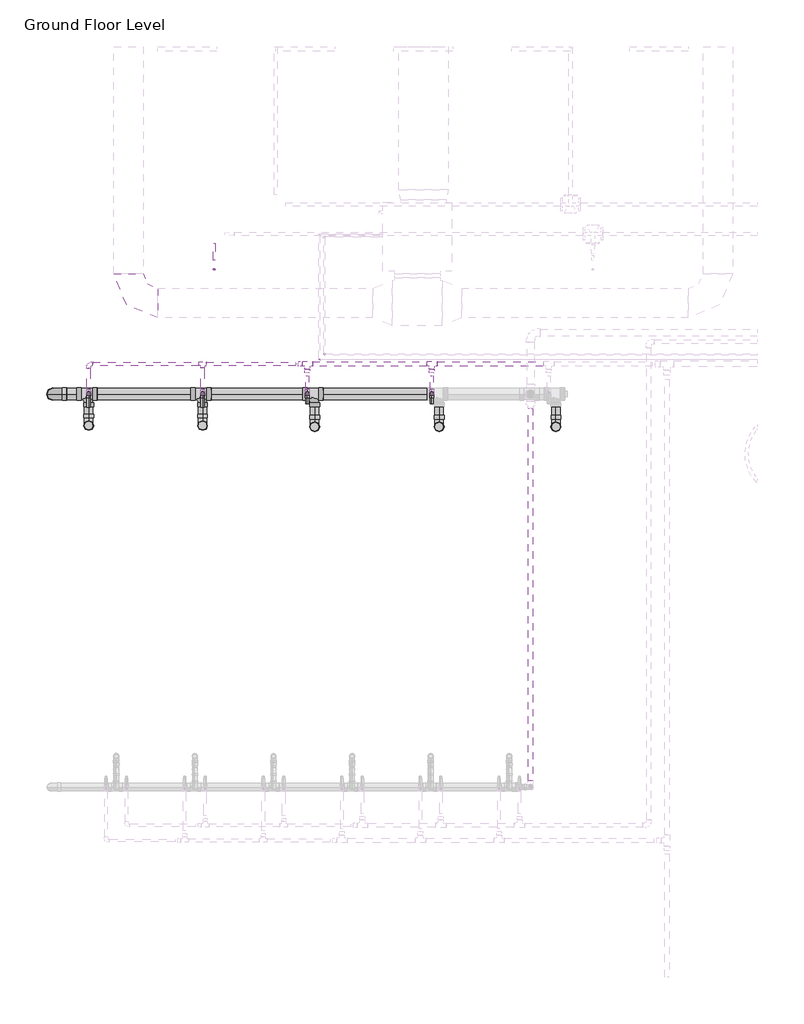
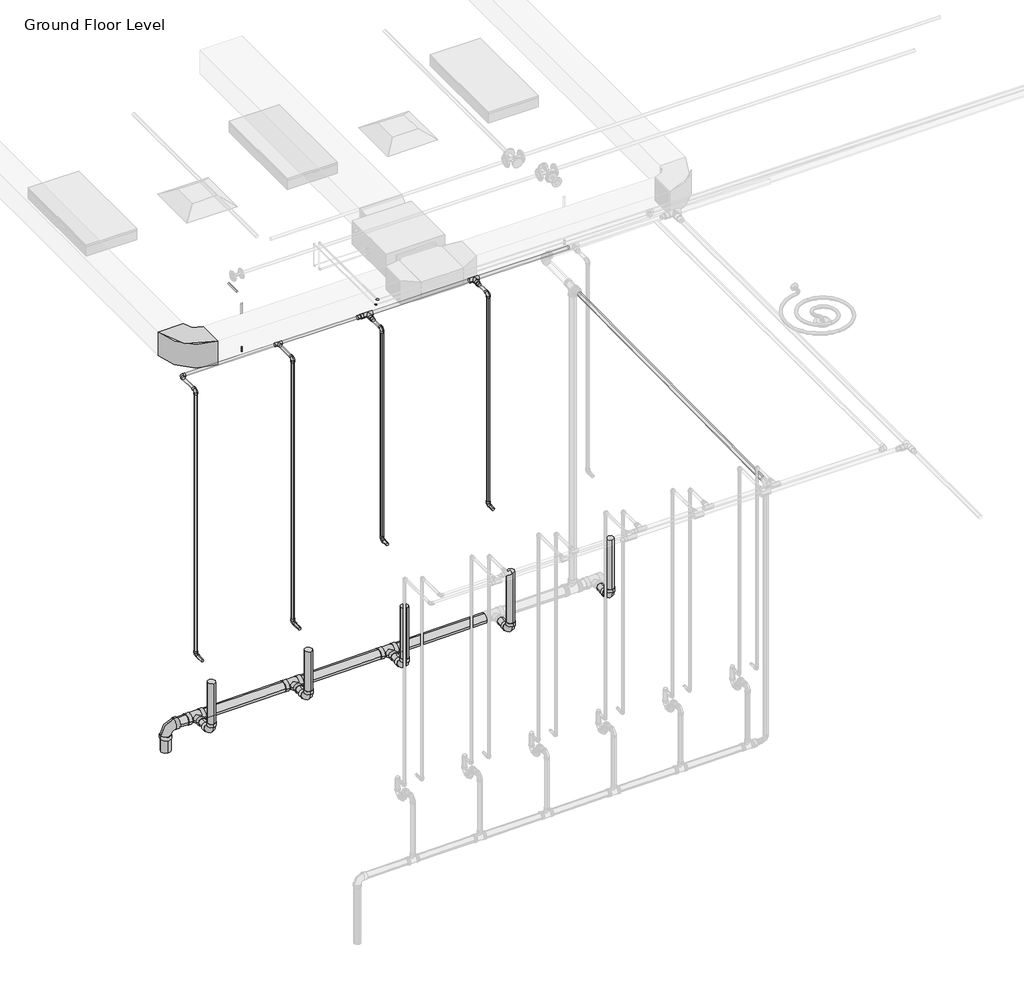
# One storey, part 42 of 74: 34 pipe segments, 26 pipe fittings, 1 duct fitting, 1 fire suppression terminal.
"""IFC4 building model written with IfcOpenShell, lengths in millimetres."""

from ifc_helpers import new_model, si_unit, point, frame, frame_2d, origin, place, context, project, spatial, circle_curve, trimmed, segment, composite_curve, outline, extrude, transform, mapped, element, save
from components import m_rectangular_elbow_radius_1_w_618da153, m_sprinkler_pendent_15_mm_pendent_06fcbd8e, m_bend_pvc_sch_40_dwv_standard_a4b99d37, m_bend_pvc_sch_40_dwv_standard_aa7efa4c, m_elbow_generic_standard_a088f956, m_elbow_generic_standard_2a704253, m_tee_reducing_sanitary_pvc_sch_40_dwv_standard_b49161a9, standard_517a5a8d, standard_ecb2b93d, standard_28db8dab, standard_72b35c3b, standard_08ff6011, standard_d0d0b892

model = new_model("IFC4")

# Units and contexts
model_context = context("Model", 3, world=origin())
ifc_project = project(units=[si_unit("LENGTHUNIT", "METRE", prefix="MILLI")], contexts=[model_context])

# Site, building, storey
site = spatial("IfcSite", under=ifc_project)
building = spatial("IfcBuilding", under=site)
storey = spatial("IfcBuildingStorey", under=building, Name="Ground Floor Level", Elevation=900.0)

# Duct fitting
placement = place(None, origin())
m_rectangular_elbow_radius_1_w_shape = m_rectangular_elbow_radius_1_w_618da153(model_context)
element("IfcDuctFitting", 1, ObjectType="M_Rectangular Elbow - Radius : 1 W", at=placement, inside=storey, context=model_context, shape_type="MappedRepresentation", body=[
    mapped(m_rectangular_elbow_radius_1_w_shape, transform((-20937.2327605, 14069.8153534, 4075.2881511), x_axis=(0.0, -1.0, 0.0), y_axis=(1.0, 0.0, 0.0), z_axis=(0.0, 0.0, 1.0))),
])

# Fire suppression terminal
m_sprinkler_pendent_15_mm_pendent_shape = m_sprinkler_pendent_15_mm_pendent_06fcbd8e(model_context)
element("IfcFireSuppressionTerminal", 2, ObjectType="M_Sprinkler - Pendent : 15 mm Pendent", at=placement, inside=storey, context=model_context, shape_type="MappedRepresentation", body=[
    mapped(m_sprinkler_pendent_15_mm_pendent_shape, transform((-20063.6803933, 14412.7243649, 3650.0), x_axis=(1.0, 0.0, 0.0), y_axis=(0.0, 1.0, 0.0), z_axis=(0.0, 0.0, 1.0))),
])

# Pipe fittings
m_bend_pvc_sch_40_dwv_standard_shape = m_bend_pvc_sch_40_dwv_standard_a4b99d37(model_context)
element("IfcPipeFitting", 3, ObjectType="M_Bend - PVC - Sch 40 - DWV : Standard", at=placement, inside=storey, context=model_context, shape_type="MappedRepresentation", body=[
    mapped(m_bend_pvc_sch_40_dwv_standard_shape, transform((-21343.0428538, 12823.8178806, 203.6352174), x_axis=(0.0, 0.0, -1.0), y_axis=(0.0, 1.0, 0.0), z_axis=(1.0, 0.0, 0.0))),
])
element("IfcPipeFitting", 4, ObjectType="M_Bend - PVC - Sch 40 - DWV : Standard", at=placement, inside=storey, context=model_context, shape_type="MappedRepresentation", body=[
    mapped(m_bend_pvc_sch_40_dwv_standard_shape, transform((-20183.0428538, 12823.8178806, 215.2352174), x_axis=(0.0, 0.0, -1.0), y_axis=(0.0, 1.0, 0.0), z_axis=(1.0, 0.0, 0.0))),
])
element("IfcPipeFitting", 5, ObjectType="M_Bend - PVC - Sch 40 - DWV : Standard", at=placement, inside=storey, context=model_context, shape_type="MappedRepresentation", body=[
    mapped(m_bend_pvc_sch_40_dwv_standard_shape, transform((-19043.0428538, 12811.6726561, 226.6352174), x_axis=(0.0, 0.0, -1.0), y_axis=(0.0, 1.0, 0.0), z_axis=(1.0, 0.0, 0.0))),
])
element("IfcPipeFitting", 6, ObjectType="M_Bend - PVC - Sch 40 - DWV : Standard", at=placement, inside=storey, context=model_context, shape_type="MappedRepresentation", body=[
    mapped(m_bend_pvc_sch_40_dwv_standard_shape, transform((-17775.8329095, 12811.6726561, 239.3073168), x_axis=(0.0, 0.0, -1.0), y_axis=(0.0, 1.0, 0.0), z_axis=(1.0, 0.0, 0.0))),
])
element("IfcPipeFitting", 7, ObjectType="M_Bend - PVC - Sch 40 - DWV : Standard", at=placement, inside=storey, context=model_context, shape_type="MappedRepresentation", body=[
    mapped(m_bend_pvc_sch_40_dwv_standard_shape, transform((-16586.4202262, 12811.6726561, 251.2014437), x_axis=(0.0, 0.0, -1.0), y_axis=(0.0, 1.0, 0.0), z_axis=(1.0, 0.0, 0.0))),
])
m_bend_pvc_sch_40_dwv_standard_2_shape = m_bend_pvc_sch_40_dwv_standard_aa7efa4c(model_context)
element("IfcPipeFitting", 8, ObjectType="M_Bend - PVC - Sch 40 - DWV : Standard", at=placement, inside=storey, context=model_context, shape_type="MappedRepresentation", body=[
    mapped(m_bend_pvc_sch_40_dwv_standard_2_shape, transform((-21707.2327605, 13143.7240477, 200.1933183), x_axis=(0.0, 0.0, 1.0), y_axis=(1.0, 0.0, 0.0), z_axis=(0.0, 1.0, 0.0))),
])
m_elbow_generic_standard_shape = m_elbow_generic_standard_a088f956(model_context)
element("IfcPipeFitting", 9, ObjectType="M_Elbow - Generic : Standard", at=placement, inside=storey, context=model_context, shape_type="MappedRepresentation", body=[
    mapped(m_elbow_generic_standard_shape, transform((-18945.3327605, 13545.2153534, 4380.0), x_axis=(0.0, -1.0, 0.0), y_axis=(1.0, 0.0, 0.0), z_axis=(0.0, 0.0, 1.0))),
])
m_elbow_generic_standard_2_shape = m_elbow_generic_standard_2a704253(model_context)
element("IfcPipeFitting", 10, ObjectType="M_Elbow - Generic : Standard", at=placement, inside=storey, context=model_context, shape_type="MappedRepresentation", body=[
    mapped(m_elbow_generic_standard_2_shape, transform((-18995.0192947, 13494.0185138, 4365.0), x_axis=(0.0, -1.0, 0.0), y_axis=(1.0, 0.0, 0.0), z_axis=(0.0, 0.0, 1.0))),
])
m_tee_reducing_sanitary_pvc_sch_40_dwv_standard_shape = m_tee_reducing_sanitary_pvc_sch_40_dwv_standard_b49161a9(model_context)
element("IfcPipeFitting", 11, ObjectType="M_Tee Reducing Sanitary - PVC - Sch 40 - DWV : Standard", at=placement, inside=storey, context=model_context, shape_type="MappedRepresentation", body=[
    mapped(m_tee_reducing_sanitary_pvc_sch_40_dwv_standard_shape, transform((-21343.0428538, 13143.7240477, 203.6352174), x_axis=(0.9999500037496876, 0.0, 0.009999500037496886), y_axis=(0.0, 1.0, 0.0), z_axis=(-0.009999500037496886, 0.0, 0.9999500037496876))),
])
element("IfcPipeFitting", 12, ObjectType="M_Tee Reducing Sanitary - PVC - Sch 40 - DWV : Standard", at=placement, inside=storey, context=model_context, shape_type="MappedRepresentation", body=[
    mapped(m_tee_reducing_sanitary_pvc_sch_40_dwv_standard_shape, transform((-20183.0428538, 13143.7240477, 215.2352174), x_axis=(0.9999500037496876, 0.0, 0.009999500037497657), y_axis=(0.0, 1.0, 0.0), z_axis=(-0.009999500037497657, 0.0, 0.9999500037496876))),
])
element("IfcPipeFitting", 13, ObjectType="M_Tee Reducing Sanitary - PVC - Sch 40 - DWV : Standard", at=placement, inside=storey, context=model_context, shape_type="MappedRepresentation", body=[
    mapped(m_tee_reducing_sanitary_pvc_sch_40_dwv_standard_shape, transform((-19043.0428538, 13143.7240477, 226.6352174), x_axis=(0.9999500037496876, 0.0, 0.009999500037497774), y_axis=(0.0, 1.0000000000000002, 0.0), z_axis=(-0.009999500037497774, 0.0, 0.9999500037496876))),
])
standard_shape = standard_517a5a8d(model_context)
element("IfcPipeFitting", 14, ObjectType="M_Elbow - CPVC - Sch 40 : Standard", at=placement, inside=storey, context=model_context, shape_type="MappedRepresentation", body=[
    mapped(standard_shape, transform((-21343.0428538, 13149.9865561, 4315.0), x_axis=(0.0, 0.0, 1.0), y_axis=(0.0, 1.0, 0.0), z_axis=(-1.0, 0.0, 0.0))),
])
element("IfcPipeFitting", 15, ObjectType="M_Elbow - CPVC - Sch 40 : Standard", at=placement, inside=storey, context=model_context, shape_type="MappedRepresentation", body=[
    mapped(standard_shape, transform((-20183.0428538, 13149.9865561, 4315.0), x_axis=(0.0, 0.0, 1.0), y_axis=(0.0, 1.0, 0.0), z_axis=(-1.0, 0.0, 0.0))),
])
element("IfcPipeFitting", 16, ObjectType="M_Elbow - CPVC - Sch 40 : Standard", at=placement, inside=storey, context=model_context, shape_type="MappedRepresentation", body=[
    mapped(standard_shape, transform((-19116.48162, 13149.9865561, 1655.0), x_axis=(0.0, 1.0, 0.0), y_axis=(0.0, 0.0, 1.0), z_axis=(1.0, 0.0, 0.0))),
])
element("IfcPipeFitting", 17, ObjectType="M_Elbow - CPVC - Sch 40 : Standard", at=placement, inside=storey, context=model_context, shape_type="MappedRepresentation", body=[
    mapped(standard_shape, transform((-19116.48162, 13149.9865561, 4315.0), x_axis=(0.0, 0.0, 1.0), y_axis=(0.0, 1.0, 0.0), z_axis=(-1.0, 0.0, 0.0))),
])
element("IfcPipeFitting", 18, ObjectType="M_Elbow - CPVC - Sch 40 : Standard", at=placement, inside=storey, context=model_context, shape_type="MappedRepresentation", body=[
    mapped(standard_shape, transform((-17849.2716757, 13149.9865561, 4315.0), x_axis=(0.0, 0.0, 1.0), y_axis=(0.0, 1.0, 0.0), z_axis=(-1.0, 0.0, 0.0))),
])
element("IfcPipeFitting", 19, ObjectType="M_Elbow - CPVC - Sch 40 : Standard", at=placement, inside=storey, context=model_context, shape_type="MappedRepresentation", body=[
    mapped(standard_shape, transform((-17849.2716757, 13149.9865561, 1655.0), x_axis=(0.0, 0.0, -1.0), y_axis=(0.0, -1.0, 0.0), z_axis=(-1.0, 0.0, 0.0))),
])
element("IfcPipeFitting", 20, ObjectType="M_Elbow - CPVC - Sch 40 : Standard", at=placement, inside=storey, context=model_context, shape_type="MappedRepresentation", body=[
    mapped(standard_shape, transform((-21343.0428538, 13449.9865561, 4315.0), x_axis=(-1.0, 0.0, 0.0), y_axis=(0.0, -1.0, 0.0), z_axis=(0.0, 0.0, 1.0))),
])
standard_2_shape = standard_ecb2b93d(model_context)
element("IfcPipeFitting", 21, ObjectType="M_Elbow - CPVC - Sch 40 : Standard", at=placement, inside=storey, context=model_context, shape_type="MappedRepresentation", body=[
    mapped(standard_2_shape, transform((-21343.0428538, 13149.9865561, 983.5000035), x_axis=(0.0, 0.9999999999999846, 1.7577295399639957e-07), y_axis=(0.0, -1.7577295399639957e-07, 0.9999999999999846), z_axis=(1.0, 0.0, 0.0))),
])
standard_3_shape = standard_28db8dab(model_context)
element("IfcPipeFitting", 22, ObjectType="M_Elbow - CPVC - Sch 40 : Standard", at=placement, inside=storey, context=model_context, shape_type="MappedRepresentation", body=[
    mapped(standard_3_shape, transform((-20183.0428538, 13149.9865561, 983.4999984), x_axis=(0.0, 0.0, -1.0), y_axis=(0.0, -1.0, 0.0), z_axis=(-1.0, 0.0, 0.0))),
])
standard_4_shape = standard_72b35c3b(model_context)
element("IfcPipeFitting", 23, ObjectType="M_Tee - CPVC - Sch 40 : Standard", at=placement, inside=storey, context=model_context, shape_type="MappedRepresentation", body=[
    mapped(standard_4_shape, transform((-20183.0428538, 13449.9865561, 4315.0), x_axis=(-1.0, 0.0, 0.0), y_axis=(0.0, 1.0, 0.0), z_axis=(0.0, 0.0, -1.0))),
])
standard_5_shape = standard_08ff6011(model_context)
element("IfcPipeFitting", 24, ObjectType="M_Tee - CPVC - Sch 40 : Standard", at=placement, inside=storey, context=model_context, shape_type="MappedRepresentation", body=[
    mapped(standard_5_shape, transform((-19116.48162, 13449.9865561, 4315.0), x_axis=(-1.0, 0.0, 0.0), y_axis=(0.0, 1.0, 0.0), z_axis=(0.0, 0.0, -1.0))),
])
element("IfcPipeFitting", 25, ObjectType="M_Tee - CPVC - Sch 40 : Standard", at=placement, inside=storey, context=model_context, shape_type="MappedRepresentation", body=[
    mapped(standard_5_shape, transform((-17849.2716757, 13449.9865561, 4315.0), x_axis=(-1.0, 0.0, 0.0), y_axis=(0.0, 1.0, 0.0), z_axis=(0.0, 0.0, -1.0))),
])
standard_6_shape = standard_d0d0b892(model_context)
element("IfcPipeFitting", 26, ObjectType="M_Coupling Reducing - CPVC - Sch 40 : Standard", at=placement, inside=storey, context=model_context, shape_type="MappedRepresentation", body=[
    mapped(standard_6_shape, transform((-19116.48162, 13396.0115561, 4315.0), x_axis=(0.0, -1.0, 0.0), y_axis=(1.0, 0.0, 0.0), z_axis=(0.0, 0.0, 1.0))),
])
element("IfcPipeFitting", 27, ObjectType="M_Coupling Reducing - CPVC - Sch 40 : Standard", at=placement, inside=storey, context=model_context, shape_type="MappedRepresentation", body=[
    mapped(standard_6_shape, transform((-17849.2716757, 13396.0115561, 4315.0), x_axis=(0.0, -1.0, 0.0), y_axis=(1.0, 0.0, 0.0), z_axis=(0.0, 0.0, 1.0))),
])
element("IfcPipeFitting", 28, ObjectType="M_Coupling Reducing - CPVC - Sch 40 : Standard", at=placement, inside=storey, context=model_context, shape_type="MappedRepresentation", body=[
    mapped(standard_6_shape, transform((-19170.45662, 13449.9865561, 4315.0), x_axis=(-1.0, 0.0, 0.0), y_axis=(0.0, -1.0, 0.0), z_axis=(0.0, 0.0, 1.0))),
])

# Pipe segments
element("IfcPipeSegment", 29, ObjectType="CPVC", at=placement, inside=storey, context=model_context, shape_type="SweptSolid", body=[
    extrude(outline(composite_curve([segment(trimmed(circle_curve(frame_2d((983.4999789, -21343.0428538)), 16.7005), [point((983.4999789, -21326.3423538))], [point((1000.2004789, -21343.0428538))], False, "CARTESIAN"), True, "CONTINUOUS"), segment(trimmed(circle_curve(frame_2d((983.4999789, -21343.0428538)), 16.7005), [point((1000.2004789, -21343.0428538))], [point((983.4999789, -21359.7433538))], False, "CARTESIAN"), True, "CONTINUOUS"), segment(trimmed(circle_curve(frame_2d((983.4999789, -21343.0428538)), 16.7005), [point((983.4999789, -21359.7433538))], [point((966.7994789, -21343.0428538))], False, "CARTESIAN"), True, "CONTINUOUS"), segment(trimmed(circle_curve(frame_2d((983.4999789, -21343.0428538)), 16.7005), [point((966.7994789, -21343.0428538))], [point((983.4999789, -21326.3423538))], False, "CARTESIAN"), True, "CONTINUOUS")], self_intersect=False)), frame((0.0, 13009.9865561, 0.0), z_axis=(0.0, 1.0, 0.0), x_axis=(0.0, 0.0, 1.0)), (0.0, 0.0, 1.0), 96.7374537),
])
element("IfcPipeSegment", 30, ObjectType="CPVC", at=placement, inside=storey, context=model_context, shape_type="SweptSolid", body=[
    extrude(outline(composite_curve([segment(trimmed(circle_curve(frame_2d((4315.0, -21343.0428538)), 16.7005), [point((4315.0, -21326.3423538))], [point((4331.7005, -21343.0428538))], False, "CARTESIAN"), True, "CONTINUOUS"), segment(trimmed(circle_curve(frame_2d((4315.0, -21343.0428538)), 16.7005), [point((4331.7005, -21343.0428538))], [point((4315.0, -21359.7433538))], False, "CARTESIAN"), True, "CONTINUOUS"), segment(trimmed(circle_curve(frame_2d((4315.0, -21343.0428538)), 16.7005), [point((4315.0, -21359.7433538))], [point((4298.2995, -21343.0428538))], False, "CARTESIAN"), True, "CONTINUOUS"), segment(trimmed(circle_curve(frame_2d((4315.0, -21343.0428538)), 16.7005), [point((4298.2995, -21343.0428538))], [point((4315.0, -21326.3423538))], False, "CARTESIAN"), True, "CONTINUOUS")], self_intersect=False)), frame((0.0, 13193.2491061, 0.0), z_axis=(0.0, 1.0, 0.0), x_axis=(0.0, 0.0, 1.0)), (0.0, 0.0, 1.0), 213.4749),
])
element("IfcPipeSegment", 31, ObjectType="CPVC", at=placement, inside=storey, context=model_context, shape_type="SweptSolid", body=[
    extrude(outline(composite_curve([segment(trimmed(circle_curve(frame_2d((-21343.0428538, 13149.9865561)), 16.7005), [point((-21359.7433538, 13149.9865561))], [point((-21343.0428538, 13166.6870561))], False, "CARTESIAN"), True, "CONTINUOUS"), segment(trimmed(circle_curve(frame_2d((-21343.0428538, 13149.9865561)), 16.7005), [point((-21343.0428538, 13166.6870561))], [point((-21326.3423538, 13149.9865561))], False, "CARTESIAN"), True, "CONTINUOUS"), segment(trimmed(circle_curve(frame_2d((-21343.0428538, 13149.9865561)), 16.7005), [point((-21326.3423538, 13149.9865561))], [point((-21343.0428538, 13133.2860561))], False, "CARTESIAN"), True, "CONTINUOUS"), segment(trimmed(circle_curve(frame_2d((-21343.0428538, 13149.9865561)), 16.7005), [point((-21343.0428538, 13133.2860561))], [point((-21359.7433538, 13149.9865561))], False, "CARTESIAN"), True, "CONTINUOUS")], self_intersect=False)), frame((0.0, 0.0, 1026.7625498), z_axis=(0.0, 0.0, 1.0), x_axis=(1.0, 0.0, 0.0)), (0.0, 0.0, 1.0), 3244.9749002),
])
element("IfcPipeSegment", 32, ObjectType="CPVC", at=placement, inside=storey, context=model_context, shape_type="SweptSolid", body=[
    extrude(outline(composite_curve([segment(trimmed(circle_curve(frame_2d((983.4999924, -20183.0428538)), 16.7005), [point((983.4999924, -20199.7433538))], [point((966.7994924, -20183.0428538))], False, "CARTESIAN"), True, "CONTINUOUS"), segment(trimmed(circle_curve(frame_2d((983.4999924, -20183.0428538)), 16.7005), [point((966.7994924, -20183.0428538))], [point((983.4999924, -20166.3423538))], False, "CARTESIAN"), True, "CONTINUOUS"), segment(trimmed(circle_curve(frame_2d((983.4999924, -20183.0428538)), 16.7005), [point((983.4999924, -20166.3423538))], [point((1000.2004924, -20183.0428538))], False, "CARTESIAN"), True, "CONTINUOUS"), segment(trimmed(circle_curve(frame_2d((983.4999924, -20183.0428538)), 16.7005), [point((1000.2004924, -20183.0428538))], [point((983.4999924, -20199.7433538))], False, "CARTESIAN"), True, "CONTINUOUS")], self_intersect=False)), frame((0.0, 13009.9865561, 0.0), z_axis=(0.0, 1.0, 0.0), x_axis=(0.0, 0.0, 1.0)), (0.0, 0.0, 1.0), 96.7374529),
])
element("IfcPipeSegment", 33, ObjectType="CPVC", at=placement, inside=storey, context=model_context, shape_type="SweptSolid", body=[
    extrude(outline(composite_curve([segment(trimmed(circle_curve(frame_2d((-20183.0428538, 13149.9865561)), 16.7005), [point((-20199.7433538, 13149.9865561))], [point((-20183.0428538, 13166.6870561))], False, "CARTESIAN"), True, "CONTINUOUS"), segment(trimmed(circle_curve(frame_2d((-20183.0428538, 13149.9865561)), 16.7005), [point((-20183.0428538, 13166.6870561))], [point((-20166.3423538, 13149.9865561))], False, "CARTESIAN"), True, "CONTINUOUS"), segment(trimmed(circle_curve(frame_2d((-20183.0428538, 13149.9865561)), 16.7005), [point((-20166.3423538, 13149.9865561))], [point((-20183.0428538, 13133.2860561))], False, "CARTESIAN"), True, "CONTINUOUS"), segment(trimmed(circle_curve(frame_2d((-20183.0428538, 13149.9865561)), 16.7005), [point((-20183.0428538, 13133.2860561))], [point((-20199.7433538, 13149.9865561))], False, "CARTESIAN"), True, "CONTINUOUS")], self_intersect=False)), frame((0.0, 0.0, 1026.7625455), z_axis=(0.0, 0.0, 1.0), x_axis=(1.0, 0.0, 0.0)), (0.0, 0.0, 1.0), 3244.9749045),
])
element("IfcPipeSegment", 34, ObjectType="CPVC", at=placement, inside=storey, context=model_context, shape_type="SweptSolid", body=[
    extrude(outline(composite_curve([segment(trimmed(circle_curve(frame_2d((1655.0, -19116.48162)), 16.7005), [point((1655.0, -19099.78112))], [point((1671.7005, -19116.48162))], False, "CARTESIAN"), True, "CONTINUOUS"), segment(trimmed(circle_curve(frame_2d((1655.0, -19116.48162)), 16.7005), [point((1671.7005, -19116.48162))], [point((1655.0, -19133.18212))], False, "CARTESIAN"), True, "CONTINUOUS"), segment(trimmed(circle_curve(frame_2d((1655.0, -19116.48162)), 16.7005), [point((1655.0, -19133.18212))], [point((1638.2995, -19116.48162))], False, "CARTESIAN"), True, "CONTINUOUS"), segment(trimmed(circle_curve(frame_2d((1655.0, -19116.48162)), 16.7005), [point((1638.2995, -19116.48162))], [point((1655.0, -19099.78112))], False, "CARTESIAN"), True, "CONTINUOUS")], self_intersect=False)), frame((0.0, 13045.2153534, 0.0), z_axis=(0.0, 1.0, 0.0), x_axis=(0.0, 0.0, 1.0)), (0.0, 0.0, 1.0), 61.5086528),
])
element("IfcPipeSegment", 35, ObjectType="CPVC", at=placement, inside=storey, context=model_context, shape_type="SweptSolid", body=[
    extrude(outline(composite_curve([segment(trimmed(circle_curve(frame_2d((-19116.48162, 13149.9865561)), 16.7005), [point((-19133.18212, 13149.9865561))], [point((-19116.48162, 13166.6870561))], False, "CARTESIAN"), True, "CONTINUOUS"), segment(trimmed(circle_curve(frame_2d((-19116.48162, 13149.9865561)), 16.7005), [point((-19116.48162, 13166.6870561))], [point((-19099.78112, 13149.9865561))], False, "CARTESIAN"), True, "CONTINUOUS"), segment(trimmed(circle_curve(frame_2d((-19116.48162, 13149.9865561)), 16.7005), [point((-19099.78112, 13149.9865561))], [point((-19116.48162, 13133.2860561))], False, "CARTESIAN"), True, "CONTINUOUS"), segment(trimmed(circle_curve(frame_2d((-19116.48162, 13149.9865561)), 16.7005), [point((-19116.48162, 13133.2860561))], [point((-19133.18212, 13149.9865561))], False, "CARTESIAN"), True, "CONTINUOUS")], self_intersect=False)), frame((0.0, 0.0, 1698.26255), z_axis=(0.0, 0.0, 1.0), x_axis=(1.0, 0.0, 0.0)), (0.0, 0.0, 1.0), 2573.4749),
])
element("IfcPipeSegment", 36, ObjectType="CPVC", at=placement, inside=storey, context=model_context, shape_type="SweptSolid", body=[
    extrude(outline(composite_curve([segment(trimmed(circle_curve(frame_2d((1655.0, -17849.2716757)), 16.7005), [point((1655.0, -17865.9721757))], [point((1638.2995, -17849.2716757))], False, "CARTESIAN"), True, "CONTINUOUS"), segment(trimmed(circle_curve(frame_2d((1655.0, -17849.2716757)), 16.7005), [point((1638.2995, -17849.2716757))], [point((1655.0, -17832.5711757))], False, "CARTESIAN"), True, "CONTINUOUS"), segment(trimmed(circle_curve(frame_2d((1655.0, -17849.2716757)), 16.7005), [point((1655.0, -17832.5711757))], [point((1671.7005, -17849.2716757))], False, "CARTESIAN"), True, "CONTINUOUS"), segment(trimmed(circle_curve(frame_2d((1655.0, -17849.2716757)), 16.7005), [point((1671.7005, -17849.2716757))], [point((1655.0, -17865.9721757))], False, "CARTESIAN"), True, "CONTINUOUS")], self_intersect=False)), frame((0.0, 13045.2153534, 0.0), z_axis=(0.0, 1.0, 0.0), x_axis=(0.0, 0.0, 1.0)), (0.0, 0.0, 1.0), 61.5086528),
])
element("IfcPipeSegment", 37, ObjectType="CPVC", at=placement, inside=storey, context=model_context, shape_type="SweptSolid", body=[
    extrude(outline(composite_curve([segment(trimmed(circle_curve(frame_2d((-17849.2716757, 13149.9865561)), 16.7005), [point((-17865.9721757, 13149.9865561))], [point((-17849.2716757, 13166.6870561))], False, "CARTESIAN"), True, "CONTINUOUS"), segment(trimmed(circle_curve(frame_2d((-17849.2716757, 13149.9865561)), 16.7005), [point((-17849.2716757, 13166.6870561))], [point((-17832.5711757, 13149.9865561))], False, "CARTESIAN"), True, "CONTINUOUS"), segment(trimmed(circle_curve(frame_2d((-17849.2716757, 13149.9865561)), 16.7005), [point((-17832.5711757, 13149.9865561))], [point((-17849.2716757, 13133.2860561))], False, "CARTESIAN"), True, "CONTINUOUS"), segment(trimmed(circle_curve(frame_2d((-17849.2716757, 13149.9865561)), 16.7005), [point((-17849.2716757, 13133.2860561))], [point((-17865.9721757, 13149.9865561))], False, "CARTESIAN"), True, "CONTINUOUS")], self_intersect=False)), frame((0.0, 0.0, 1698.26255), z_axis=(0.0, 0.0, 1.0), x_axis=(1.0, 0.0, 0.0)), (0.0, 0.0, 1.0), 2573.4749),
])
element("IfcPipeSegment", 38, ObjectType="CPVC", at=placement, inside=storey, context=model_context, shape_type="SweptSolid", body=[
    extrude(outline(composite_curve([segment(trimmed(circle_curve(frame_2d((13449.9865561, 4315.0)), 16.7005), [point((13433.2860561, 4315.0))], [point((13449.9865561, 4331.7005))], False, "CARTESIAN"), True, "CONTINUOUS"), segment(trimmed(circle_curve(frame_2d((13449.9865561, 4315.0)), 16.7005), [point((13449.9865561, 4331.7005))], [point((13466.6870561, 4315.0))], False, "CARTESIAN"), True, "CONTINUOUS"), segment(trimmed(circle_curve(frame_2d((13449.9865561, 4315.0)), 16.7005), [point((13466.6870561, 4315.0))], [point((13449.9865561, 4298.2995))], False, "CARTESIAN"), True, "CONTINUOUS"), segment(trimmed(circle_curve(frame_2d((13449.9865561, 4315.0)), 16.7005), [point((13449.9865561, 4298.2995))], [point((13433.2860561, 4315.0))], False, "CARTESIAN"), True, "CONTINUOUS")], self_intersect=False)), frame((-21299.7803038, 0.0, 0.0), z_axis=(1.0, 0.0, 0.0), x_axis=(0.0, 1.0, 0.0)), (0.0, 0.0, 1.0), 1077.03725),
])
element("IfcPipeSegment", 39, ObjectType="CPVC", at=placement, inside=storey, context=model_context, shape_type="SweptSolid", body=[
    extrude(outline(composite_curve([segment(trimmed(circle_curve(frame_2d((4315.0, -20183.0428538)), 16.7005), [point((4315.0, -20166.3423538))], [point((4331.7005, -20183.0428538))], False, "CARTESIAN"), True, "CONTINUOUS"), segment(trimmed(circle_curve(frame_2d((4315.0, -20183.0428538)), 16.7005), [point((4331.7005, -20183.0428538))], [point((4315.0, -20199.7433538))], False, "CARTESIAN"), True, "CONTINUOUS"), segment(trimmed(circle_curve(frame_2d((4315.0, -20183.0428538)), 16.7005), [point((4315.0, -20199.7433538))], [point((4298.2995, -20183.0428538))], False, "CARTESIAN"), True, "CONTINUOUS"), segment(trimmed(circle_curve(frame_2d((4315.0, -20183.0428538)), 16.7005), [point((4298.2995, -20183.0428538))], [point((4315.0, -20166.3423538))], False, "CARTESIAN"), True, "CONTINUOUS")], self_intersect=False)), frame((0.0, 13193.2491061, 0.0), z_axis=(0.0, 1.0, 0.0), x_axis=(0.0, 0.0, 1.0)), (0.0, 0.0, 1.0), 217.03725),
])
element("IfcPipeSegment", 40, ObjectType="CPVC", at=placement, inside=storey, context=model_context, shape_type="SweptSolid", body=[
    extrude(outline(composite_curve([segment(trimmed(circle_curve(frame_2d((13449.9865561, 4315.0)), 16.7005), [point((13433.2860561, 4315.0))], [point((13449.9865561, 4331.7005))], False, "CARTESIAN"), True, "CONTINUOUS"), segment(trimmed(circle_curve(frame_2d((13449.9865561, 4315.0)), 16.7005), [point((13449.9865561, 4331.7005))], [point((13466.6870561, 4315.0))], False, "CARTESIAN"), True, "CONTINUOUS"), segment(trimmed(circle_curve(frame_2d((13449.9865561, 4315.0)), 16.7005), [point((13466.6870561, 4315.0))], [point((13449.9865561, 4298.2995))], False, "CARTESIAN"), True, "CONTINUOUS"), segment(trimmed(circle_curve(frame_2d((13449.9865561, 4315.0)), 16.7005), [point((13449.9865561, 4298.2995))], [point((13433.2860561, 4315.0))], False, "CARTESIAN"), True, "CONTINUOUS")], self_intersect=False)), frame((-20143.3426538, 0.0, 0.0), z_axis=(1.0, 0.0, 0.0), x_axis=(0.0, 1.0, 0.0)), (0.0, 0.0, 1.0), 906.7671588),
])
element("IfcPipeSegment", 41, ObjectType="CPVC", at=placement, inside=storey, context=model_context, shape_type="SweptSolid", body=[
    extrude(outline(composite_curve([segment(trimmed(circle_curve(frame_2d((4315.0, -19116.48162)), 16.7005), [point((4315.0, -19099.78112))], [point((4331.7005, -19116.48162))], False, "CARTESIAN"), True, "CONTINUOUS"), segment(trimmed(circle_curve(frame_2d((4315.0, -19116.48162)), 16.7005), [point((4331.7005, -19116.48162))], [point((4315.0, -19133.18212))], False, "CARTESIAN"), True, "CONTINUOUS"), segment(trimmed(circle_curve(frame_2d((4315.0, -19116.48162)), 16.7005), [point((4315.0, -19133.18212))], [point((4298.2995, -19116.48162))], False, "CARTESIAN"), True, "CONTINUOUS"), segment(trimmed(circle_curve(frame_2d((4315.0, -19116.48162)), 16.7005), [point((4298.2995, -19116.48162))], [point((4315.0, -19099.78112))], False, "CARTESIAN"), True, "CONTINUOUS")], self_intersect=False)), frame((0.0, 13193.2491061, 0.0), z_axis=(0.0, 1.0, 0.0), x_axis=(0.0, 0.0, 1.0)), (0.0, 0.0, 1.0), 136.643575),
])
element("IfcPipeSegment", 42, ObjectType="CPVC", at=placement, inside=storey, context=model_context, shape_type="SweptSolid", body=[
    extrude(outline(composite_curve([segment(trimmed(circle_curve(frame_2d((13449.9865561, 4315.0)), 21.082), [point((13428.9045561, 4315.0))], [point((13449.9865561, 4336.082))], False, "CARTESIAN"), True, "CONTINUOUS"), segment(trimmed(circle_curve(frame_2d((13449.9865561, 4315.0)), 21.082), [point((13449.9865561, 4336.082))], [point((13471.0685561, 4315.0))], False, "CARTESIAN"), True, "CONTINUOUS"), segment(trimmed(circle_curve(frame_2d((13449.9865561, 4315.0)), 21.082), [point((13471.0685561, 4315.0))], [point((13449.9865561, 4293.918))], False, "CARTESIAN"), True, "CONTINUOUS"), segment(trimmed(circle_curve(frame_2d((13449.9865561, 4315.0)), 21.082), [point((13449.9865561, 4293.918))], [point((13428.9045561, 4315.0))], False, "CARTESIAN"), True, "CONTINUOUS")], self_intersect=False)), frame((-19062.50662, 0.0, 0.0), z_axis=(1.0, 0.0, 0.0), x_axis=(0.0, 1.0, 0.0)), (0.0, 0.0, 1.0), 1159.2599443),
])
element("IfcPipeSegment", 43, ObjectType="CPVC", at=placement, inside=storey, context=model_context, shape_type="SweptSolid", body=[
    extrude(outline(composite_curve([segment(trimmed(circle_curve(frame_2d((4315.0, -17849.2716757)), 16.7005), [point((4315.0, -17832.5711757))], [point((4331.7005, -17849.2716757))], False, "CARTESIAN"), True, "CONTINUOUS"), segment(trimmed(circle_curve(frame_2d((4315.0, -17849.2716757)), 16.7005), [point((4331.7005, -17849.2716757))], [point((4315.0, -17865.9721757))], False, "CARTESIAN"), True, "CONTINUOUS"), segment(trimmed(circle_curve(frame_2d((4315.0, -17849.2716757)), 16.7005), [point((4315.0, -17865.9721757))], [point((4298.2995, -17849.2716757))], False, "CARTESIAN"), True, "CONTINUOUS"), segment(trimmed(circle_curve(frame_2d((4315.0, -17849.2716757)), 16.7005), [point((4298.2995, -17849.2716757))], [point((4315.0, -17832.5711757))], False, "CARTESIAN"), True, "CONTINUOUS")], self_intersect=False)), frame((0.0, 13193.2491061, 0.0), z_axis=(0.0, 1.0, 0.0), x_axis=(0.0, 0.0, 1.0)), (0.0, 0.0, 1.0), 136.643575),
])
element("IfcPipeSegment", 44, ObjectType="CPVC", at=placement, inside=storey, context=model_context, shape_type="SweptSolid", body=[
    extrude(outline(composite_curve([segment(trimmed(circle_curve(frame_2d((13449.9865561, 4315.0)), 21.082), [point((13428.9045561, 4315.0))], [point((13449.9865561, 4336.082))], False, "CARTESIAN"), True, "CONTINUOUS"), segment(trimmed(circle_curve(frame_2d((13449.9865561, 4315.0)), 21.082), [point((13449.9865561, 4336.082))], [point((13471.0685561, 4315.0))], False, "CARTESIAN"), True, "CONTINUOUS"), segment(trimmed(circle_curve(frame_2d((13449.9865561, 4315.0)), 21.082), [point((13471.0685561, 4315.0))], [point((13449.9865561, 4293.918))], False, "CARTESIAN"), True, "CONTINUOUS"), segment(trimmed(circle_curve(frame_2d((13449.9865561, 4315.0)), 21.082), [point((13449.9865561, 4293.918))], [point((13428.9045561, 4315.0))], False, "CARTESIAN"), True, "CONTINUOUS")], self_intersect=False)), frame((-17795.2966757, 0.0, 0.0), z_axis=(1.0, 0.0, 0.0), x_axis=(0.0, 1.0, 0.0)), (0.0, 0.0, 1.0), 1081.4626833),
])
element("IfcPipeSegment", 45, ObjectType="PVC - DWV", at=placement, inside=storey, context=model_context, shape_type="SweptSolid", body=[
    extrude(outline(composite_curve([segment(trimmed(circle_curve(frame_2d((-21343.0428538, 12823.8178806)), 44.45), [point((-21298.5928538, 12823.8178806))], [point((-21343.0428538, 12779.3678806))], False, "CARTESIAN"), True, "CONTINUOUS"), segment(trimmed(circle_curve(frame_2d((-21343.0428538, 12823.8178806)), 44.45), [point((-21343.0428538, 12779.3678806))], [point((-21387.4928538, 12823.8178806))], False, "CARTESIAN"), True, "CONTINUOUS"), segment(trimmed(circle_curve(frame_2d((-21343.0428538, 12823.8178806)), 44.45), [point((-21387.4928538, 12823.8178806))], [point((-21343.0428538, 12868.2678806))], False, "CARTESIAN"), True, "CONTINUOUS"), segment(trimmed(circle_curve(frame_2d((-21343.0428538, 12823.8178806)), 44.45), [point((-21343.0428538, 12868.2678806))], [point((-21298.5928538, 12823.8178806))], False, "CARTESIAN"), True, "CONTINUOUS")], self_intersect=False)), frame((0.0, 0.0, 319.5354174), z_axis=(0.0, 0.0, 1.0), x_axis=(1.0, 0.0, 0.0)), (0.0, 0.0, 1.0), 511.1329592),
])
element("IfcPipeSegment", 46, ObjectType="PVC - DWV", at=placement, inside=storey, context=model_context, shape_type="SweptSolid", body=[
    extrude(outline(composite_curve([segment(trimmed(circle_curve(frame_2d((203.6352174, -21343.0428538)), 44.45), [point((203.6352174, -21298.5928538))], [point((248.0852174, -21343.0428538))], False, "CARTESIAN"), True, "CONTINUOUS"), segment(trimmed(circle_curve(frame_2d((203.6352174, -21343.0428538)), 44.45), [point((248.0852174, -21343.0428538))], [point((203.6352174, -21387.4928538))], False, "CARTESIAN"), True, "CONTINUOUS"), segment(trimmed(circle_curve(frame_2d((203.6352174, -21343.0428538)), 44.45), [point((203.6352174, -21387.4928538))], [point((159.1852174, -21343.0428538))], False, "CARTESIAN"), True, "CONTINUOUS"), segment(trimmed(circle_curve(frame_2d((203.6352174, -21343.0428538)), 44.45), [point((159.1852174, -21343.0428538))], [point((203.6352174, -21298.5928538))], False, "CARTESIAN"), True, "CONTINUOUS")], self_intersect=False)), frame((0.0, 12939.7180806, 0.0), z_axis=(0.0, 1.0, 0.0), x_axis=(0.0, 0.0, 1.0)), (0.0, 0.0, 1.0), 75.4057671),
])
element("IfcPipeSegment", 47, ObjectType="PVC - DWV", at=placement, inside=storey, context=model_context, shape_type="SweptSolid", body=[
    extrude(outline(composite_curve([segment(trimmed(circle_curve(frame_2d((0.0, -57.15)), 57.15), [point((0.0, 0.0))], [point((57.15, -57.15))], False, "CARTESIAN"), True, "CONTINUOUS"), segment(trimmed(circle_curve(frame_2d((0.0, -57.15)), 57.15), [point((57.15, -57.15))], [point((0.0, -114.3))], False, "CARTESIAN"), True, "CONTINUOUS"), segment(trimmed(circle_curve(frame_2d((0.0, -57.15)), 57.15), [point((0.0, -114.3))], [point((-57.15, -57.15))], False, "CARTESIAN"), True, "CONTINUOUS"), segment(trimmed(circle_curve(frame_2d((0.0, -57.15)), 57.15), [point((-57.15, -57.15))], [point((0.0, 0.0))], False, "CARTESIAN"), True, "CONTINUOUS")], self_intersect=False)), frame((-21564.3649037, 13200.8740477, 201.6219969), z_axis=(0.9999500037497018, 0.0, 0.00999950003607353), x_axis=(0.00999950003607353, 0.0, -0.9999500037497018)), (0.0, 0.0, 1.0), 100.6811159),
])
element("IfcPipeSegment", 48, ObjectType="PVC - DWV", at=placement, inside=storey, context=model_context, shape_type="SweptSolid", body=[
    extrude(outline(composite_curve([segment(trimmed(circle_curve(frame_2d((-20183.0428538, 12823.8178806)), 44.45), [point((-20138.5928538, 12823.8178806))], [point((-20183.0428538, 12779.3678806))], False, "CARTESIAN"), True, "CONTINUOUS"), segment(trimmed(circle_curve(frame_2d((-20183.0428538, 12823.8178806)), 44.45), [point((-20183.0428538, 12779.3678806))], [point((-20227.4928538, 12823.8178806))], False, "CARTESIAN"), True, "CONTINUOUS"), segment(trimmed(circle_curve(frame_2d((-20183.0428538, 12823.8178806)), 44.45), [point((-20227.4928538, 12823.8178806))], [point((-20183.0428538, 12868.2678806))], False, "CARTESIAN"), True, "CONTINUOUS"), segment(trimmed(circle_curve(frame_2d((-20183.0428538, 12823.8178806)), 44.45), [point((-20183.0428538, 12868.2678806))], [point((-20138.5928538, 12823.8178806))], False, "CARTESIAN"), True, "CONTINUOUS")], self_intersect=False)), frame((0.0, 0.0, 331.1354174), z_axis=(0.0, 0.0, 1.0), x_axis=(1.0, 0.0, 0.0)), (0.0, 0.0, 1.0), 499.5329592),
])
element("IfcPipeSegment", 49, ObjectType="PVC - DWV", at=placement, inside=storey, context=model_context, shape_type="SweptSolid", body=[
    extrude(outline(composite_curve([segment(trimmed(circle_curve(frame_2d((215.2352174, -20183.0428538)), 44.45), [point((215.2352174, -20138.5928538))], [point((259.6852174, -20183.0428538))], False, "CARTESIAN"), True, "CONTINUOUS"), segment(trimmed(circle_curve(frame_2d((215.2352174, -20183.0428538)), 44.45), [point((259.6852174, -20183.0428538))], [point((215.2352174, -20227.4928538))], False, "CARTESIAN"), True, "CONTINUOUS"), segment(trimmed(circle_curve(frame_2d((215.2352174, -20183.0428538)), 44.45), [point((215.2352174, -20227.4928538))], [point((170.7852174, -20183.0428538))], False, "CARTESIAN"), True, "CONTINUOUS"), segment(trimmed(circle_curve(frame_2d((215.2352174, -20183.0428538)), 44.45), [point((170.7852174, -20183.0428538))], [point((215.2352174, -20138.5928538))], False, "CARTESIAN"), True, "CONTINUOUS")], self_intersect=False)), frame((0.0, 12939.7180806, 0.0), z_axis=(0.0, 1.0, 0.0), x_axis=(0.0, 0.0, 1.0)), (0.0, 0.0, 1.0), 75.4057671),
])
element("IfcPipeSegment", 50, ObjectType="PVC - DWV", at=placement, inside=storey, context=model_context, shape_type="SweptSolid", body=[
    extrude(outline(composite_curve([segment(trimmed(circle_curve(frame_2d((0.0, -57.15)), 57.15), [point((0.0, 0.0))], [point((57.1500001, -57.15))], False, "CARTESIAN"), True, "CONTINUOUS"), segment(trimmed(circle_curve(frame_2d((0.0, -57.15)), 57.15), [point((57.1500001, -57.15))], [point((0.0, -114.3))], False, "CARTESIAN"), True, "CONTINUOUS"), segment(trimmed(circle_curve(frame_2d((0.0, -57.15)), 57.15), [point((0.0, -114.3))], [point((-57.15, -57.15))], False, "CARTESIAN"), True, "CONTINUOUS"), segment(trimmed(circle_curve(frame_2d((0.0, -57.15)), 57.15), [point((-57.15, -57.15))], [point((0.0, 0.0))], False, "CARTESIAN"), True, "CONTINUOUS")], self_intersect=False)), frame((-21254.1472985, 13200.8740477, 204.524173), z_axis=(0.9999500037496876, 0.0, 0.009999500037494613), x_axis=(0.009999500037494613, 0.0, -0.9999500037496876)), (0.0, 0.0, 1.0), 950.5079986),
])
element("IfcPipeSegment", 51, ObjectType="PVC - DWV", at=placement, inside=storey, context=model_context, shape_type="SweptSolid", body=[
    extrude(outline(composite_curve([segment(trimmed(circle_curve(frame_2d((-19043.0428538, 12811.6726561)), 44.45), [point((-18998.5928538, 12811.6726561))], [point((-19043.0428538, 12767.2226561))], False, "CARTESIAN"), True, "CONTINUOUS"), segment(trimmed(circle_curve(frame_2d((-19043.0428538, 12811.6726561)), 44.45), [point((-19043.0428538, 12767.2226561))], [point((-19087.4928538, 12811.6726561))], False, "CARTESIAN"), True, "CONTINUOUS"), segment(trimmed(circle_curve(frame_2d((-19043.0428538, 12811.6726561)), 44.45), [point((-19087.4928538, 12811.6726561))], [point((-19043.0428538, 12856.1226561))], False, "CARTESIAN"), True, "CONTINUOUS"), segment(trimmed(circle_curve(frame_2d((-19043.0428538, 12811.6726561)), 44.45), [point((-19043.0428538, 12856.1226561))], [point((-18998.5928538, 12811.6726561))], False, "CARTESIAN"), True, "CONTINUOUS")], self_intersect=False)), frame((0.0, 0.0, 342.5354174), z_axis=(0.0, 0.0, 1.0), x_axis=(1.0, 0.0, 0.0)), (0.0, 0.0, 1.0), 647.4645826),
])
element("IfcPipeSegment", 52, ObjectType="PVC - DWV", at=placement, inside=storey, context=model_context, shape_type="SweptSolid", body=[
    extrude(outline(composite_curve([segment(trimmed(circle_curve(frame_2d((226.6352174, -19043.0428538)), 44.45), [point((226.6352174, -18998.5928538))], [point((271.0852174, -19043.0428538))], False, "CARTESIAN"), True, "CONTINUOUS"), segment(trimmed(circle_curve(frame_2d((226.6352174, -19043.0428538)), 44.45), [point((271.0852174, -19043.0428538))], [point((226.6352174, -19087.4928538))], False, "CARTESIAN"), True, "CONTINUOUS"), segment(trimmed(circle_curve(frame_2d((226.6352174, -19043.0428538)), 44.45), [point((226.6352174, -19087.4928538))], [point((182.1852174, -19043.0428538))], False, "CARTESIAN"), True, "CONTINUOUS"), segment(trimmed(circle_curve(frame_2d((226.6352174, -19043.0428538)), 44.45), [point((182.1852174, -19043.0428538))], [point((226.6352174, -18998.5928538))], False, "CARTESIAN"), True, "CONTINUOUS")], self_intersect=False)), frame((0.0, 12927.5728561, 0.0), z_axis=(0.0, 1.0, 0.0), x_axis=(0.0, 0.0, 1.0)), (0.0, 0.0, 1.0), 87.5509916),
])
element("IfcPipeSegment", 53, ObjectType="PVC - DWV", at=placement, inside=storey, context=model_context, shape_type="SweptSolid", body=[
    extrude(outline(composite_curve([segment(trimmed(circle_curve(frame_2d((0.0, -57.15)), 57.15), [point((0.0, 0.0))], [point((57.1500001, -57.15))], False, "CARTESIAN"), True, "CONTINUOUS"), segment(trimmed(circle_curve(frame_2d((0.0, -57.15)), 57.15), [point((57.1500001, -57.15))], [point((0.0, -114.3))], False, "CARTESIAN"), True, "CONTINUOUS"), segment(trimmed(circle_curve(frame_2d((0.0, -57.15)), 57.15), [point((0.0, -114.3))], [point((-57.15, -57.15))], False, "CARTESIAN"), True, "CONTINUOUS"), segment(trimmed(circle_curve(frame_2d((0.0, -57.15)), 57.15), [point((-57.15, -57.15))], [point((0.0, 0.0))], False, "CARTESIAN"), True, "CONTINUOUS")], self_intersect=False)), frame((-20094.1472985, 13200.8740477, 216.124173), z_axis=(0.9999500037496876, 0.0, 0.009999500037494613), x_axis=(0.009999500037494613, 0.0, -0.9999500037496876)), (0.0, 0.0, 1.0), 930.5069986),
])
element("IfcPipeSegment", 54, ObjectType="PVC - DWV", at=placement, inside=storey, context=model_context, shape_type="SweptSolid", body=[
    extrude(outline(composite_curve([segment(trimmed(circle_curve(frame_2d((-17775.8329095, 12811.6726561)), 44.45), [point((-17731.3829095, 12811.6726561))], [point((-17775.8329095, 12767.2226561))], False, "CARTESIAN"), True, "CONTINUOUS"), segment(trimmed(circle_curve(frame_2d((-17775.8329095, 12811.6726561)), 44.45), [point((-17775.8329095, 12767.2226561))], [point((-17820.2829095, 12811.6726561))], False, "CARTESIAN"), True, "CONTINUOUS"), segment(trimmed(circle_curve(frame_2d((-17775.8329095, 12811.6726561)), 44.45), [point((-17820.2829095, 12811.6726561))], [point((-17775.8329095, 12856.1226561))], False, "CARTESIAN"), True, "CONTINUOUS"), segment(trimmed(circle_curve(frame_2d((-17775.8329095, 12811.6726561)), 44.45), [point((-17775.8329095, 12856.1226561))], [point((-17731.3829095, 12811.6726561))], False, "CARTESIAN"), True, "CONTINUOUS")], self_intersect=False)), frame((0.0, 0.0, 355.2075168), z_axis=(0.0, 0.0, 1.0), x_axis=(1.0, 0.0, 0.0)), (0.0, 0.0, 1.0), 634.7924832),
])
element("IfcPipeSegment", 55, ObjectType="PVC - DWV", at=placement, inside=storey, context=model_context, shape_type="SweptSolid", body=[
    extrude(outline(composite_curve([segment(trimmed(circle_curve(frame_2d((239.3073168, -17775.8329095)), 44.45), [point((239.3073168, -17731.3829095))], [point((283.7573168, -17775.8329095))], False, "CARTESIAN"), True, "CONTINUOUS"), segment(trimmed(circle_curve(frame_2d((239.3073168, -17775.8329095)), 44.45), [point((283.7573168, -17775.8329095))], [point((239.3073168, -17820.2829095))], False, "CARTESIAN"), True, "CONTINUOUS"), segment(trimmed(circle_curve(frame_2d((239.3073168, -17775.8329095)), 44.45), [point((239.3073168, -17820.2829095))], [point((194.8573168, -17775.8329095))], False, "CARTESIAN"), True, "CONTINUOUS"), segment(trimmed(circle_curve(frame_2d((239.3073168, -17775.8329095)), 44.45), [point((194.8573168, -17775.8329095))], [point((239.3073168, -17731.3829095))], False, "CARTESIAN"), True, "CONTINUOUS")], self_intersect=False)), frame((0.0, 12927.5728561, 0.0), z_axis=(0.0, 1.0, 0.0), x_axis=(0.0, 0.0, 1.0)), (0.0, 0.0, 1.0), 87.5509916),
])
element("IfcPipeSegment", 56, ObjectType="PVC - DWV", at=placement, inside=storey, context=model_context, shape_type="SweptSolid", body=[
    extrude(outline(composite_curve([segment(trimmed(circle_curve(frame_2d((0.0, -57.15)), 57.15), [point((0.0, 0.0))], [point((57.1500001, -57.15))], False, "CARTESIAN"), True, "CONTINUOUS"), segment(trimmed(circle_curve(frame_2d((0.0, -57.15)), 57.15), [point((57.1500001, -57.15))], [point((0.0, -114.3))], False, "CARTESIAN"), True, "CONTINUOUS"), segment(trimmed(circle_curve(frame_2d((0.0, -57.15)), 57.15), [point((0.0, -114.3))], [point((-57.15, -57.15))], False, "CARTESIAN"), True, "CONTINUOUS"), segment(trimmed(circle_curve(frame_2d((0.0, -57.15)), 57.15), [point((-57.15, -57.15))], [point((0.0, 0.0))], False, "CARTESIAN"), True, "CONTINUOUS")], self_intersect=False)), frame((-18954.1472985, 13200.8740477, 227.524173), z_axis=(0.9999500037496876, 0.0, 0.009999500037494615), x_axis=(0.009999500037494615, 0.0, -0.9999500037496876)), (0.0, 0.0, 1.0), 1057.7233032),
])
element("IfcPipeSegment", 57, ObjectType="PVC - DWV", at=placement, inside=storey, context=model_context, shape_type="SweptSolid", body=[
    extrude(outline(composite_curve([segment(trimmed(circle_curve(frame_2d((-16586.4202262, 12811.6726561)), 44.45), [point((-16541.9702262, 12811.6726561))], [point((-16586.4202262, 12767.2226561))], False, "CARTESIAN"), True, "CONTINUOUS"), segment(trimmed(circle_curve(frame_2d((-16586.4202262, 12811.6726561)), 44.45), [point((-16586.4202262, 12767.2226561))], [point((-16630.8702262, 12811.6726561))], False, "CARTESIAN"), True, "CONTINUOUS"), segment(trimmed(circle_curve(frame_2d((-16586.4202262, 12811.6726561)), 44.45), [point((-16630.8702262, 12811.6726561))], [point((-16586.4202262, 12856.1226561))], False, "CARTESIAN"), True, "CONTINUOUS"), segment(trimmed(circle_curve(frame_2d((-16586.4202262, 12811.6726561)), 44.45), [point((-16586.4202262, 12856.1226561))], [point((-16541.9702262, 12811.6726561))], False, "CARTESIAN"), True, "CONTINUOUS")], self_intersect=False)), frame((0.0, 0.0, 367.1016437), z_axis=(0.0, 0.0, 1.0), x_axis=(1.0, 0.0, 0.0)), (0.0, 0.0, 1.0), 622.8983563),
])
element("IfcPipeSegment", 58, ObjectType="PVC - DWV", at=placement, inside=storey, context=model_context, shape_type="SweptSolid", body=[
    extrude(outline(composite_curve([segment(trimmed(circle_curve(frame_2d((251.2014437, -16586.4202262)), 44.45), [point((251.2014437, -16541.9702262))], [point((295.6514437, -16586.4202262))], False, "CARTESIAN"), True, "CONTINUOUS"), segment(trimmed(circle_curve(frame_2d((251.2014437, -16586.4202262)), 44.45), [point((295.6514437, -16586.4202262))], [point((251.2014437, -16630.8702262))], False, "CARTESIAN"), True, "CONTINUOUS"), segment(trimmed(circle_curve(frame_2d((251.2014437, -16586.4202262)), 44.45), [point((251.2014437, -16630.8702262))], [point((206.7514437, -16586.4202262))], False, "CARTESIAN"), True, "CONTINUOUS"), segment(trimmed(circle_curve(frame_2d((251.2014437, -16586.4202262)), 44.45), [point((206.7514437, -16586.4202262))], [point((251.2014437, -16541.9702262))], False, "CARTESIAN"), True, "CONTINUOUS")], self_intersect=False)), frame((0.0, 12927.5728561, 0.0), z_axis=(0.0, 1.0, 0.0), x_axis=(0.0, 0.0, 1.0)), (0.0, 0.0, 1.0), 87.5509916),
])
element("IfcPipeSegment", 59, ObjectType="PVC - DWV", at=placement, inside=storey, context=model_context, shape_type="SweptSolid", body=[
    extrude(outline(composite_curve([segment(trimmed(circle_curve(frame_2d((-21707.2327605, 13143.7240477)), 57.15), [point((-21650.0827605, 13143.7240477))], [point((-21707.2327605, 13086.5740477))], False, "CARTESIAN"), True, "CONTINUOUS"), segment(trimmed(circle_curve(frame_2d((-21707.2327605, 13143.7240477)), 57.15), [point((-21707.2327605, 13086.5740477))], [point((-21764.3827605, 13143.7240477))], False, "CARTESIAN"), True, "CONTINUOUS"), segment(trimmed(circle_curve(frame_2d((-21707.2327605, 13143.7240477)), 57.15), [point((-21764.3827605, 13143.7240477))], [point((-21707.2327605, 13200.8740477))], False, "CARTESIAN"), True, "CONTINUOUS"), segment(trimmed(circle_curve(frame_2d((-21707.2327605, 13143.7240477)), 57.15), [point((-21707.2327605, 13200.8740477))], [point((-21650.0827605, 13143.7240477))], False, "CARTESIAN"), True, "CONTINUOUS")], self_intersect=False)), frame((0.0, 0.0, -100.0), z_axis=(0.0, 0.0, 1.0), x_axis=(1.0, 0.0, 0.0)), (0.0, 0.0, 1.0), 157.3183183),
])
element("IfcPipeSegment", 60, ObjectType="PVC - DWV", at=placement, inside=storey, context=model_context, shape_type="SweptSolid", body=[
    extrude(outline(composite_curve([segment(trimmed(circle_curve(frame_2d((0.0, 24.13)), 24.13), [point((24.13, 24.13))], [point((0.0, 0.0))], False, "CARTESIAN"), True, "CONTINUOUS"), segment(trimmed(circle_curve(frame_2d((0.0, 24.13)), 24.13), [point((0.0, 0.0))], [point((-24.13, 24.13))], False, "CARTESIAN"), True, "CONTINUOUS"), segment(trimmed(circle_curve(frame_2d((0.0, 24.13)), 24.13), [point((-24.13, 24.13))], [point((0.0, 48.26))], False, "CARTESIAN"), True, "CONTINUOUS"), segment(trimmed(circle_curve(frame_2d((0.0, 24.13)), 24.13), [point((0.0, 48.26))], [point((24.13, 24.13))], False, "CARTESIAN"), True, "CONTINUOUS")], self_intersect=False)), frame((-16844.3158637, 9205.5039756, 4035.5483838), z_axis=(0.0, 0.9999500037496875, 0.009999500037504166), x_axis=(1.0, 0.0, 0.0)), (0.0, 0.0, 1.0), 3795.0796333),
])
element("IfcPipeSegment", 61, ObjectType="Steel flanged", at=placement, inside=storey, context=model_context, shape_type="SweptSolid", body=[
    extrude(outline(composite_curve([segment(trimmed(circle_curve(frame_2d((-20063.6803933, 14412.7243649)), 10.668), [point((-20074.3483933, 14412.7243649))], [point((-20063.6803933, 14423.3923649))], False, "CARTESIAN"), True, "CONTINUOUS"), segment(trimmed(circle_curve(frame_2d((-20063.6803933, 14412.7243649)), 10.668), [point((-20063.6803933, 14423.3923649))], [point((-20053.0123933, 14412.7243649))], False, "CARTESIAN"), True, "CONTINUOUS"), segment(trimmed(circle_curve(frame_2d((-20063.6803933, 14412.7243649)), 10.668), [point((-20053.0123933, 14412.7243649))], [point((-20063.6803933, 14402.0563649))], False, "CARTESIAN"), True, "CONTINUOUS"), segment(trimmed(circle_curve(frame_2d((-20063.6803933, 14412.7243649)), 10.668), [point((-20063.6803933, 14402.0563649))], [point((-20074.3483933, 14412.7243649))], False, "CARTESIAN"), True, "CONTINUOUS")], self_intersect=False)), frame((0.0, 0.0, 3650.0), z_axis=(0.0, 0.0, 1.0), x_axis=(1.0, 0.0, 0.0)), (0.0, 0.0, 1.0), 548.2668816),
])
element("IfcPipeSegment", 62, ObjectType="Steel flanged", at=placement, inside=storey, context=model_context, shape_type="SweptSolid", body=[
    extrude(outline(composite_curve([segment(trimmed(circle_curve(frame_2d((4291.0943441, -20063.6803933)), 10.668), [point((4291.0943441, -20053.0123933))], [point((4301.7623441, -20063.6803933))], False, "CARTESIAN"), True, "CONTINUOUS"), segment(trimmed(circle_curve(frame_2d((4291.0943441, -20063.6803933)), 10.668), [point((4301.7623441, -20063.6803933))], [point((4291.0943441, -20074.3483933))], False, "CARTESIAN"), True, "CONTINUOUS"), segment(trimmed(circle_curve(frame_2d((4291.0943441, -20063.6803933)), 10.668), [point((4291.0943441, -20074.3483933))], [point((4280.4263441, -20063.6803933))], False, "CARTESIAN"), True, "CONTINUOUS"), segment(trimmed(circle_curve(frame_2d((4291.0943441, -20063.6803933)), 10.668), [point((4280.4263441, -20063.6803933))], [point((4291.0943441, -20053.0123933))], False, "CARTESIAN"), True, "CONTINUOUS")], self_intersect=False)), frame((0.0, 14505.7329586, 0.0), z_axis=(0.0, 1.0, 0.0), x_axis=(0.0, 0.0, 1.0)), (0.0, 0.0, 1.0), 174.7266324),
])

save(model, "model.ifc")
